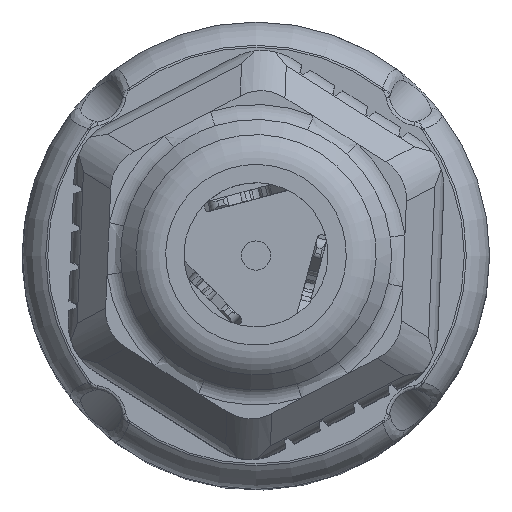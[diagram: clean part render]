
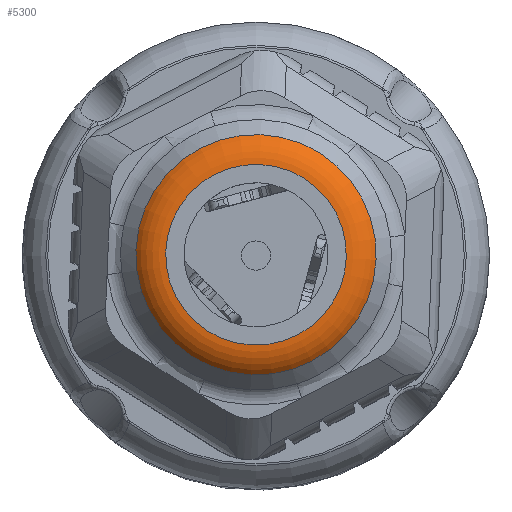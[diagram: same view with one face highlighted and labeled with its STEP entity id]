
A CAD part, top view. The second image highlights one B-rep face of the part: STEP entity #5300.
In plain terms, the highlighted toroidal (fillet/blend) face has major radius 4.639 mm and minor radius 2 mm.
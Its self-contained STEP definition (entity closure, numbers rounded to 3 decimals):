
#63=TOROIDAL_SURFACE('',#5688,4.639,2.);
#393=FACE_OUTER_BOUND('',#704,.T.);
#704=EDGE_LOOP('',(#3712,#3713,#3714,#3715,#3716));
#998=CIRCLE('',#5665,4.639);
#1011=CIRCLE('',#5686,6.171);
#1012=CIRCLE('',#5687,6.171);
#1013=CIRCLE('',#5689,2.);
#2244=VERTEX_POINT('',#8179);
#2267=VERTEX_POINT('',#8322);
#2268=VERTEX_POINT('',#8324);
#2813=EDGE_CURVE('',#2244,#2244,#998,.T.);
#2840=EDGE_CURVE('',#2267,#2268,#1011,.F.);
#2841=EDGE_CURVE('',#2268,#2267,#1012,.F.);
#2842=EDGE_CURVE('',#2244,#2268,#1013,.T.);
#3712=ORIENTED_EDGE('',*,*,#2813,.F.);
#3713=ORIENTED_EDGE('',*,*,#2842,.T.);
#3714=ORIENTED_EDGE('',*,*,#2840,.F.);
#3715=ORIENTED_EDGE('',*,*,#2841,.F.);
#3716=ORIENTED_EDGE('',*,*,#2842,.F.);
#5300=ADVANCED_FACE('',(#393),#63,.T.);
#5665=AXIS2_PLACEMENT_3D('',#8180,#6421,#6422);
#5686=AXIS2_PLACEMENT_3D('',#8325,#6469,#6470);
#5687=AXIS2_PLACEMENT_3D('',#8326,#6471,#6472);
#5688=AXIS2_PLACEMENT_3D('',#8327,#6473,#6474);
#5689=AXIS2_PLACEMENT_3D('',#8328,#6475,#6476);
#6421=DIRECTION('center_axis',(0.,0.,
1.));
#6422=DIRECTION('ref_axis',(-0.886,-0.463,0.));
#6469=DIRECTION('center_axis',(0.,0.,
1.));
#6470=DIRECTION('ref_axis',(-0.886,-0.463,0.));
#6471=DIRECTION('center_axis',(0.,0.,
1.));
#6472=DIRECTION('ref_axis',(-0.886,-0.463,0.));
#6473=DIRECTION('center_axis',(0.,0.,
1.));
#6474=DIRECTION('ref_axis',(-0.886,-0.463,0.));
#6475=DIRECTION('center_axis',(-0.463,0.886,0.));
#6476=DIRECTION('ref_axis',(0.886,0.463,0.));
#8179=CARTESIAN_POINT('',(4.111,2.15,44.67));
#8180=CARTESIAN_POINT('Origin',(0.,0.,
44.67));
#8322=CARTESIAN_POINT('',(2.86,-5.468,43.956));
#8324=CARTESIAN_POINT('',(5.468,2.86,43.956));
#8325=CARTESIAN_POINT('Origin',(0.,0.,
43.956));
#8326=CARTESIAN_POINT('Origin',(0.,0.,
43.956));
#8327=CARTESIAN_POINT('Origin',(0.,0.,
42.67));
#8328=CARTESIAN_POINT('Origin',(4.111,2.15,42.67));
